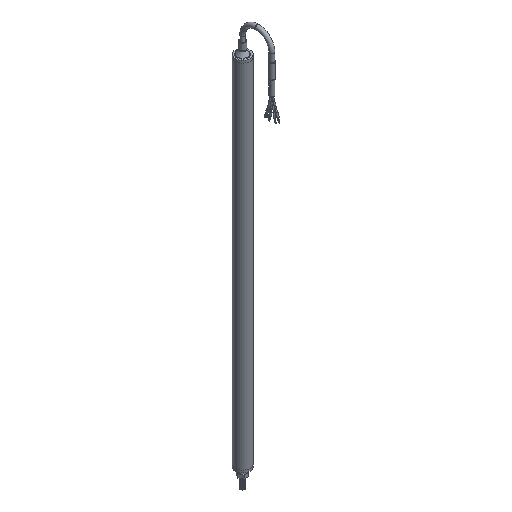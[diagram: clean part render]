
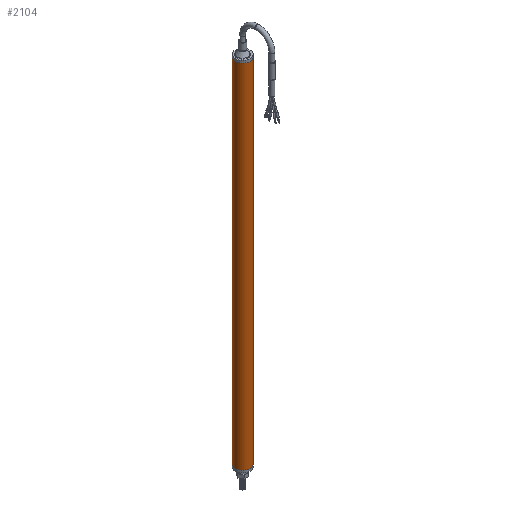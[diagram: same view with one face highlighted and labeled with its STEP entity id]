
A CAD part, isometric view. The second image highlights one B-rep face of the part: STEP entity #2104.
In plain terms, the highlighted cylindrical face has radius 6.35 mm (diameter 12.7 mm), a full revolution.
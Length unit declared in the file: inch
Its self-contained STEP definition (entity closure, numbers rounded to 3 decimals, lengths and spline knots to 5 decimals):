
#98=LINE('',#3305,#245);
#245=VECTOR('',#2707,0.25);
#391=CYLINDRICAL_SURFACE('',#2422,0.25);
#462=FACE_OUTER_BOUND('',#600,.T.);
#600=EDGE_LOOP('',(#1364,#1365,#1366,#1367,#1368));
#744=CIRCLE('',#2410,0.25);
#745=CIRCLE('',#2411,0.25);
#750=CIRCLE('',#2420,0.25);
#846=VERTEX_POINT('',#3282);
#847=VERTEX_POINT('',#3284);
#852=VERTEX_POINT('',#3300);
#1043=EDGE_CURVE('',#847,#846,#744,.T.);
#1044=EDGE_CURVE('',#846,#847,#745,.T.);
#1051=EDGE_CURVE('',#852,#852,#750,.T.);
#1052=EDGE_CURVE('',#852,#847,#98,.T.);
#1364=ORIENTED_EDGE('',*,*,#1051,.F.);
#1365=ORIENTED_EDGE('',*,*,#1052,.T.);
#1366=ORIENTED_EDGE('',*,*,#1043,.T.);
#1367=ORIENTED_EDGE('',*,*,#1044,.T.);
#1368=ORIENTED_EDGE('',*,*,#1052,.F.);
#2104=ADVANCED_FACE('',(#462),#391,.T.);
#2410=AXIS2_PLACEMENT_3D('',#3285,#2679,#2680);
#2411=AXIS2_PLACEMENT_3D('',#3286,#2681,#2682);
#2420=AXIS2_PLACEMENT_3D('',#3302,#2701,#2702);
#2422=AXIS2_PLACEMENT_3D('',#3304,#2705,#2706);
#2679=DIRECTION('center_axis',(0.,0.,-1.));
#2680=DIRECTION('ref_axis',(-1.,0.,0.));
#2681=DIRECTION('center_axis',(0.,0.,-1.));
#2682=DIRECTION('ref_axis',(-1.,0.,0.));
#2701=DIRECTION('center_axis',(0.,0.,-1.));
#2702=DIRECTION('ref_axis',(-1.,0.,0.));
#2705=DIRECTION('center_axis',(0.,0.,-1.));
#2706=DIRECTION('ref_axis',(-1.,0.,0.));
#2707=DIRECTION('',(0.,0.,1.));
#3282=CARTESIAN_POINT('',(0.,0.25,0.));
#3284=CARTESIAN_POINT('',(0.25,0.,0.));
#3285=CARTESIAN_POINT('Origin',(0.,0.,0.));
#3286=CARTESIAN_POINT('Origin',(0.,0.,0.));
#3300=CARTESIAN_POINT('',(0.25,0.,-11.85039));
#3302=CARTESIAN_POINT('Origin',(0.,0.,-11.85039));
#3304=CARTESIAN_POINT('Origin',(0.,0.,0.));
#3305=CARTESIAN_POINT('',(0.25,0.,0.));
